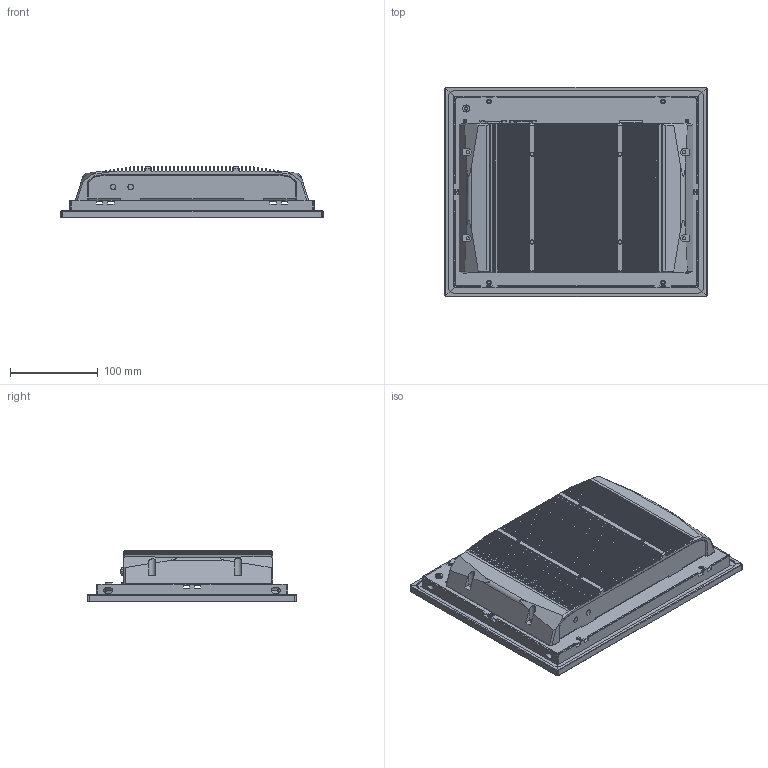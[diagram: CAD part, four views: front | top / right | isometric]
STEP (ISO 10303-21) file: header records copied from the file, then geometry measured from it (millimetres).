
FILE_DESCRIPTION (( 'STEP AP214' ), '1' );
FILE_NAME ('TPC6000-C1041-L.STEP', '2023-06-01T02:23:20', ( 'i' ), ( 'Microsoft' ), 'SwSTEP 2.0', 'SolidWorks 2016', '' );
FILE_SCHEMA (( 'AUTOMOTIVE_DESIGN' ));
Length unit declared in the file: millimetre
Products named in the file (1): TPC6000-C1041-L
Bounding box: 298.5 x 238.5 x 58.5 mm (x, y, z)
Surface area: 270639.8 mm2 (no closed solid volume)
Topology: 0 solids, 63 shells, 1506 faces, 7421 edges, 5535 vertices
Faces by surface type: plane 962, cylinder 443, cone 68, bspline 23, torus 10
Entity records: 90507 total; most frequent: CARTESIAN_POINT 18009, DIRECTION 11018, ORIENTED_EDGE 10434, EDGE_CURVE 7383, VECTOR 5626, LINE 5626, VERTEX_POINT 5535, AXIS2_PLACEMENT_3D 2696
